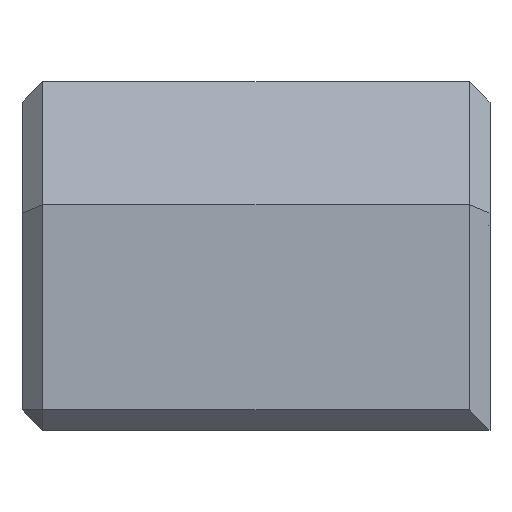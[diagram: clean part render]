
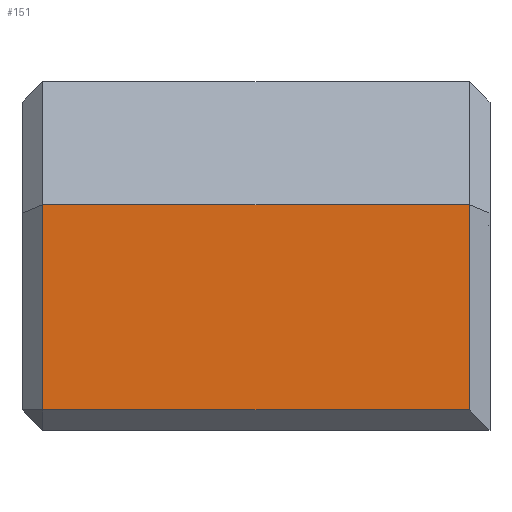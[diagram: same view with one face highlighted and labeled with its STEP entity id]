
A CAD part, left-side view. The second image highlights one B-rep face of the part: STEP entity #151.
In plain terms, the highlighted planar face has unit normal (-1, 0, 0).
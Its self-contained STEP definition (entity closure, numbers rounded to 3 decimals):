
#42 = VECTOR ( 'NONE', #88, 1000. ) ;
#57 = EDGE_CURVE ( 'NONE', #894, #506, #943, .T. ) ;
#72 = LINE ( 'NONE', #493, #42 ) ;
#88 = DIRECTION ( 'NONE',  ( 0., 1., 0. ) ) ;
#89 = VERTEX_POINT ( 'NONE', #938 ) ;
#94 = DIRECTION ( 'NONE',  ( 0., 0., 1. ) ) ;
#108 = AXIS2_PLACEMENT_3D ( 'NONE', #900, #621, #463 ) ;
#117 = LINE ( 'NONE', #697, #989 ) ;
#151 = ADVANCED_FACE ( 'NONE', ( #245 ), #379, .F. ) ;
#212 = CARTESIAN_POINT ( 'NONE',  ( -5., 8.2, 0.5 ) ) ;
#245 = FACE_OUTER_BOUND ( 'NONE', #1032, .T. ) ;
#269 = CARTESIAN_POINT ( 'NONE',  ( -5., -7.7, 0.5 ) ) ;
#292 = CARTESIAN_POINT ( 'NONE',  ( -5., -7.7, 8.5 ) ) ;
#358 = VERTEX_POINT ( 'NONE', #460 ) ;
#366 = EDGE_CURVE ( 'NONE', #358, #894, #712, .T. ) ;
#374 = VECTOR ( 'NONE', #94, 1000. ) ;
#377 = DIRECTION ( 'NONE',  ( 0., 0., -1. ) ) ;
#379 = PLANE ( 'NONE',  #108 ) ;
#445 = VECTOR ( 'NONE', #465, 1000. ) ;
#460 = CARTESIAN_POINT ( 'NONE',  ( -5., 2.7, 0.5 ) ) ;
#463 = DIRECTION ( 'NONE',  ( 0., 1., 0. ) ) ;
#465 = DIRECTION ( 'NONE',  ( 0., -1., 0. ) ) ;
#486 = ORIENTED_EDGE ( 'NONE', *, *, #548, .T. ) ;
#493 = CARTESIAN_POINT ( 'NONE',  ( -5., 8.2, 5.5 ) ) ;
#506 = VERTEX_POINT ( 'NONE', #524 ) ;
#524 = CARTESIAN_POINT ( 'NONE',  ( -5., -7.7, 5.5 ) ) ;
#548 = EDGE_CURVE ( 'NONE', #89, #358, #117, .T. ) ;
#610 = ORIENTED_EDGE ( 'NONE', *, *, #366, .T. ) ;
#621 = DIRECTION ( 'NONE',  ( 1., 0., 0. ) ) ;
#697 = CARTESIAN_POINT ( 'NONE',  ( -5., 2.7, 8.5 ) ) ;
#712 = LINE ( 'NONE', #212, #445 ) ;
#721 = EDGE_CURVE ( 'NONE', #506, #89, #72, .T. ) ;
#804 = ORIENTED_EDGE ( 'NONE', *, *, #721, .T. ) ;
#894 = VERTEX_POINT ( 'NONE', #269 ) ;
#900 = CARTESIAN_POINT ( 'NONE',  ( -5., 8.2, 8.5 ) ) ;
#938 = CARTESIAN_POINT ( 'NONE',  ( -5., 2.7, 5.5 ) ) ;
#943 = LINE ( 'NONE', #292, #374 ) ;
#988 = ORIENTED_EDGE ( 'NONE', *, *, #57, .T. ) ;
#989 = VECTOR ( 'NONE', #377, 1000. ) ;
#1032 = EDGE_LOOP ( 'NONE', ( #804, #486, #610, #988 ) ) ;
